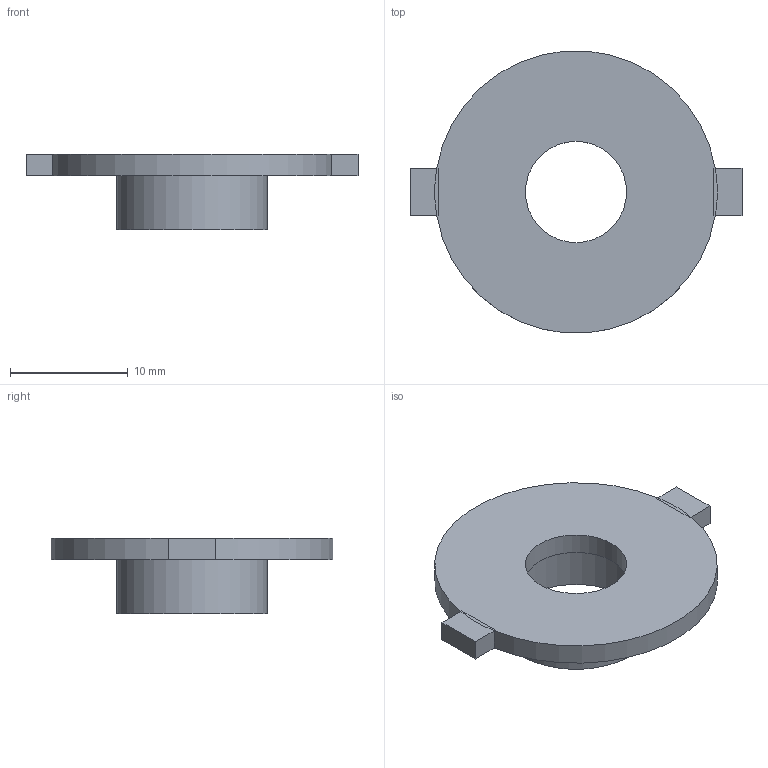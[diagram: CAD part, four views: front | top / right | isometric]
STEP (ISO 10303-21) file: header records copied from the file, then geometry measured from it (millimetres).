
FILE_DESCRIPTION(('Open CASCADE Model'),'2;1');
FILE_NAME('Open CASCADE Shape Model','2026-09-24T02:53:20',('Author'),( 'Open CASCADE'),'Open CASCADE STEP processor 7.8','Open CASCADE 7.8' ,'Unknown');
FILE_SCHEMA(('AUTOMOTIVE_DESIGN { 1 0 10303 214 1 1 1 1 }'));
Length unit declared in the file: millimetre
Products named in the file (1): Open CASCADE STEP translator 7.8 22
Bounding box: 28.2 x 23.92 x 6.4 mm (x, y, z)
Volume: 798.5 mm3; surface area: 1384.4 mm2
Topology: 1 solids, 1 shells, 23 faces, 51 edges, 32 vertices
Faces by surface type: plane 18, cylinder 5
Full cylindrical faces by diameter (mm): 8.6 x1, 12.16 x1, 12.8 x1
Entity records: 1310 total; most frequent: DIRECTION 217, CARTESIAN_POINT 209, LINE 115, VECTOR 115, ORIENTED_EDGE 102, PCURVE 102, DEFINITIONAL_REPRESENTATION 102, EDGE_CURVE 51
